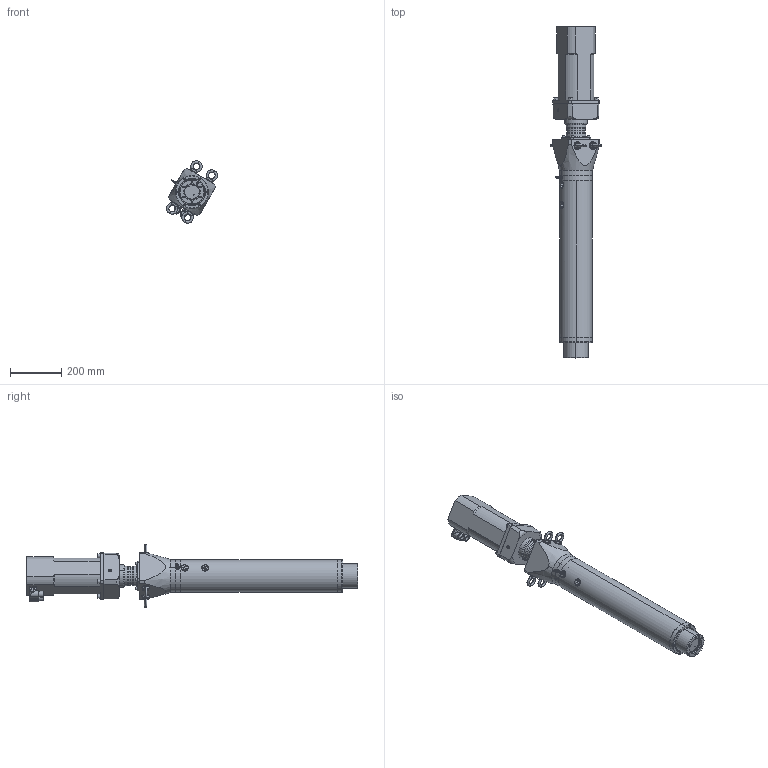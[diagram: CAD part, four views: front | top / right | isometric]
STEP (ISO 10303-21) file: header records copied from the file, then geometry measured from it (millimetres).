
FILE_DESCRIPTION (( 'STEP AP203' ), '1' );
FILE_NAME ('LN5I0300-035-025NG0.STEP', '2014-10-24T11:22:05', ( 'Holtz' ), ( '' ), 'SwSTEP 2.0', 'SolidWorks 2013', '' );
FILE_SCHEMA (( 'CONFIG_CONTROL_DESIGN' ));
Length unit declared in the file: millimetre
Products named in the file (1): LN5I0300-035-025NG0
Bounding box: 200.61 x 1298.5 x 244.54 mm (x, y, z)
Volume: 13783599.3 mm3; surface area: 1378807.6 mm2
Topology: 31 solids, 31 shells, 1067 faces, 2501 edges, 1501 vertices
Faces by surface type: cylinder 431, plane 354, cone 214, torus 48, bspline 18, sphere 2
Entity records: 32350 total; most frequent: CARTESIAN_POINT 7772, DIRECTION 5445, ORIENTED_EDGE 4766, EDGE_CURVE 2383, AXIS2_PLACEMENT_3D 2150, VERTEX_POINT 1501, EDGE_LOOP 1274, LINE 1145
